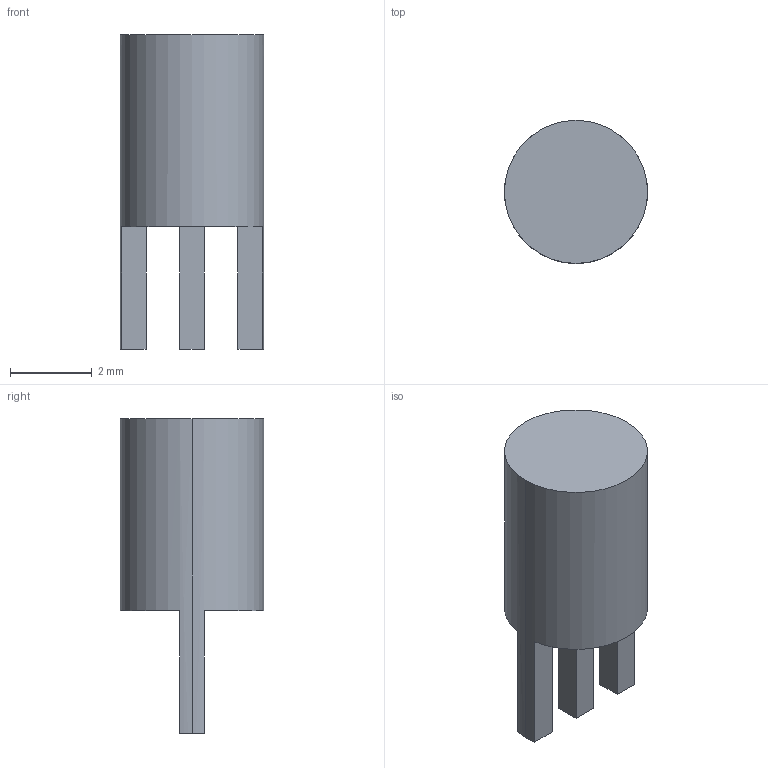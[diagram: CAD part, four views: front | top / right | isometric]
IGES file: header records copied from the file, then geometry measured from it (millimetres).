
Start section:  PTC IGES file: gps-ant-ext-conn_prt.igs
Global section: file name: gps-ant-ext-conn_prt.igs; native system: Pro/ENGINEER by Parametric Technology Corporation; preprocessor: 2006170; author: GRA; organization: Unknown; date: 20080630.105141; units: millimetre
Bounding box: 3.5 x 3.5 x 7.7 mm (x, y, z)
Surface area: 92.5 mm2 (no closed solid volume)
Topology: 0 solids, 0 shells, 17 faces, 84 edges, 84 vertices
Faces by surface type: bspline 15, revolution 2
